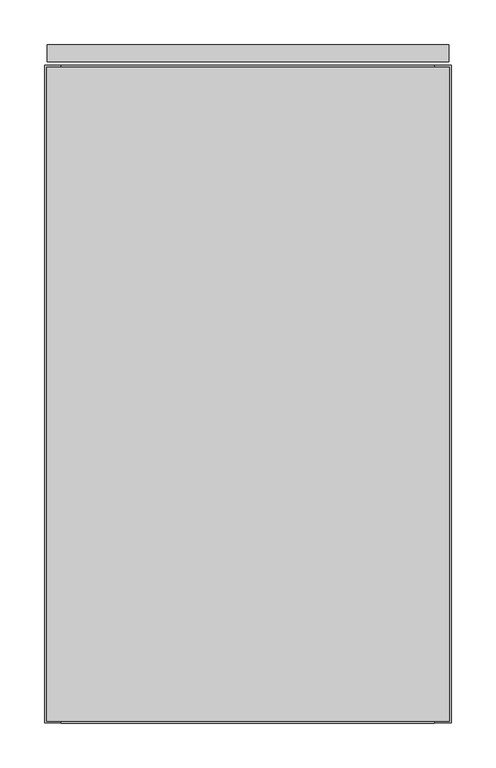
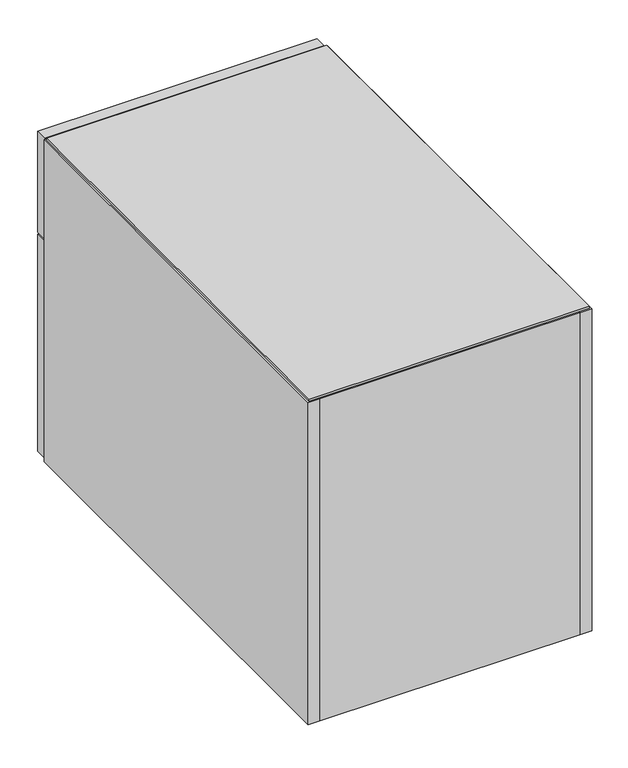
"""IFC4 building model written with IfcOpenShell, lengths in millimetres: furniture geometry, Geiger_GeigerOneCasegoods_LowStorage1Box1File : Vertical Veneer 18Wx30Dx21.75H."""

from ifc_helpers import new_model, si_unit, point, frame, origin, place, context, project, spatial, polyline, circle_curve, ellipse_curve, trimmed, outline, extrude, source, transform, mapped, element, save
from ifc_brep_helpers import plane_surface, cylinder_surface, revolved_surface, advanced_brep


def furniture_6e33beb1(model_context):
    return source(origin(), model_context, "Body", "SolidModel", [
        extrude(outline(polyline([(19.0, 19.5), (19.0, 738.8), (438.2, 738.8), (438.2, 19.5), (19.0, 19.5)])), frame((0.0, 0.0, 73.2), z_axis=(0.0, 0.0, 1.0), x_axis=(1.0, 0.0, 0.0)), (0.0, 0.0, 1.0), 19.5072),
        extrude(outline(polyline([(3.0, 742.8), (3.0, 762.0), (454.2, 762.0), (454.2, 742.8), (3.0, 742.8)])), frame((0.0, 0.0, 15.7), z_axis=(0.0, 0.0, 1.0), x_axis=(1.0, 0.0, 0.0)), (0.0, 0.0, 1.0), 370.0),
        extrude(outline(polyline([(3.0, 742.8), (3.0, 762.0), (454.2, 762.0), (454.2, 742.8), (3.0, 742.8)])), frame((0.0, 0.0, 388.7), z_axis=(0.0, 0.0, 1.0), x_axis=(1.0, 0.0, 0.0)), (0.0, 0.0, 1.0), 172.2),
        extrude(outline(polyline([(19.0, 19.5), (19.0, 719.3), (438.2, 719.3), (438.2, 19.5), (19.0, 19.5)])), frame((0.0, 0.0, 12.7), z_axis=(0.0, 0.0, 1.0), x_axis=(1.0, 0.0, 0.0)), (0.0, 0.0, 1.0), 19.5),
        extrude(outline(polyline([(454.66, 2.54), (2.54, 2.54), (2.54, 736.26), (454.66, 736.26), (454.66, 2.54)])), frame((0.0, 0.0, 561.7), z_axis=(0.0, 0.0, 1.0), x_axis=(1.0, 0.0, 0.0)), (0.0, 0.0, 1.0), 3.2766),
        extrude(outline(polyline([(19.0, 95.7), (19.0, 738.8), (438.2, 738.8), (438.2, 95.7), (19.0, 95.7)])), frame((0.0, 0.0, 542.2), z_axis=(0.0, 0.0, 1.0), x_axis=(1.0, 0.0, 0.0)), (0.0, 0.0, 1.0), 19.5),
        extrude(outline(polyline([(438.2, 19.5), (438.2, 0.0), (19.0, 0.0), (19.0, 19.5), (438.2, 19.5)])), frame((0.0, 0.0, 12.7), z_axis=(0.0, 0.0, 1.0), x_axis=(1.0, 0.0, 0.0)), (0.0, 0.0, 1.0), 549.0),
        extrude(outline(polyline([(19.0, 719.3), (19.0, 738.8), (438.2, 738.8), (438.2, 719.3), (19.0, 719.3)])), frame((0.0, 0.0, 12.7), z_axis=(0.0, 0.0, 1.0), x_axis=(1.0, 0.0, 0.0)), (0.0, 0.0, 1.0), 60.5),
        extrude(outline(polyline([(19.0, 738.8), (19.0, 0.5), (0.0, 0.5), (0.0, 738.8), (19.0, 738.8)])), frame((0.0, 0.0, 12.7), z_axis=(0.0, 0.0, 1.0), x_axis=(1.0, 0.0, 0.0)), (0.0, 0.0, 1.0), 549.0),
        extrude(outline(polyline([(457.2, 738.8), (457.2, 0.5), (438.2, 0.5), (438.2, 738.8), (457.2, 738.8)])), frame((0.0, 0.0, 12.7), z_axis=(0.0, 0.0, 1.0), x_axis=(1.0, 0.0, 0.0)), (0.0, 0.0, 1.0), 549.0),
        advanced_brep(
        [(94.0575663, 681.3165105, 0.0), (83.0, 681.3165105, 0.0), (71.9424337, 681.3165105, 0.0), (71.9424337, 681.3165105, 9.5), (94.0575663, 681.3165105, 9.5), (78.933545, 681.3165105, 9.5), (87.066455, 681.3165105, 9.5), (78.933545, 681.3165105, 12.7), (87.066455, 681.3165105, 12.7), (83.0, 681.3165105, 12.7)],
        [
            (0, 1),
            (1, 2),
            (2, 0, circle_curve(frame((83.0, 681.3165105, 0.0), z_axis=(0.0, 0.0, -1.0), x_axis=(-1.0, 0.0, 0.0)), 11.0575663)),
            (0, 2, circle_curve(frame((83.0, 681.3165105, 0.0), z_axis=(0.0, 0.0, -1.0), x_axis=(-1.0, 0.0, 0.0)), 11.0575663)),
            (2, 3, circle_curve(frame((71.9424337, 681.3165105, 4.75), z_axis=(0.0, 1.0, 0.0), x_axis=(-1.0, 0.0, 0.0)), 4.75)),
            (3, 4, circle_curve(frame((83.0, 681.3165105, 9.5), z_axis=(0.0, 0.0, -1.0), x_axis=(-1.0, 0.0, 0.0)), 11.0575663)),
            (4, 0, circle_curve(frame((94.0575663, 681.3165105, 4.75), z_axis=(0.0, 1.0, 0.0), x_axis=(1.0, 0.0, 0.0)), 4.75)),
            (4, 3, circle_curve(frame((83.0, 681.3165105, 9.5), z_axis=(0.0, 0.0, -1.0), x_axis=(-1.0, 0.0, 0.0)), 11.0575663)),
            (3, 5),
            (5, 6, circle_curve(frame((83.0, 681.3165105, 9.5), z_axis=(0.0, 0.0, -1.0), x_axis=(-1.0, 0.0, 0.0)), 4.066455)),
            (6, 4),
            (6, 5, circle_curve(frame((83.0, 681.3165105, 9.5), z_axis=(0.0, 0.0, -1.0), x_axis=(-1.0, 0.0, 0.0)), 4.066455)),
            (5, 7),
            (7, 8, circle_curve(frame((83.0, 681.3165105, 12.7), z_axis=(0.0, 0.0, -1.0), x_axis=(-1.0, 0.0, 0.0)), 4.066455)),
            (8, 6),
            (8, 7, circle_curve(frame((83.0, 681.3165105, 12.7), z_axis=(0.0, 0.0, -1.0), x_axis=(-1.0, 0.0, 0.0)), 4.066455)),
            (7, 9),
            (9, 8),
        ],
        [
            plane_surface(frame((83.0, 681.3165105, 0.0), z_axis=(0.0, 0.0, -1.0), x_axis=(-1.0, 0.0, 0.0))),
            revolved_surface(trimmed(ellipse_curve(frame((71.9424337, 681.3165105, 4.75), z_axis=(0.0, 1.0, 0.0), x_axis=(-1.0, 0.0, 0.0)), 4.75, 4.75), [point((71.9424337, 681.3165105, 0.0))], [point((71.9424337, 681.3165105, 9.5))], True, "CARTESIAN"), (83.0, 681.3165105, 0.0), (0.0, 0.0, 1.0)),
            plane_surface(frame((83.0, 681.3165105, 9.5), z_axis=(0.0, 0.0, 1.0), x_axis=(-1.0, 0.0, 0.0))),
            cylinder_surface(frame((83.0, 681.3165105, 0.0), z_axis=(0.0, 0.0, 1.0), x_axis=(-1.0, 0.0, 0.0)), 4.066455),
            plane_surface(frame((83.0, 681.3165105, 12.7), z_axis=(0.0, 0.0, 1.0), x_axis=(-1.0, 0.0, 0.0))),
        ],
        [
            (0, [[1, 2, 3]]),
            (0, [[-1, 4, -2]]),
            (1, [[5, 6, 7, -3]]),
            (1, [[-7, 8, -5, -4]]),
            (2, [[9, 10, 11, -6]]),
            (2, [[-11, 12, -9, -8]]),
            (3, [[13, 14, 15, -10]]),
            (3, [[-15, 16, -13, -12]]),
            (4, [[17, 18, -14]]),
            (4, [[-18, -17, -16]]),
        ],
    ),
        advanced_brep(
        [(94.0575663, 127.0, 0.0), (83.0, 127.0, 0.0), (71.9424337, 127.0, 0.0), (71.9424337, 127.0, 9.5), (94.0575663, 127.0, 9.5), (78.933545, 127.0, 9.5), (87.066455, 127.0, 9.5), (78.933545, 127.0, 12.7), (87.066455, 127.0, 12.7), (83.0, 127.0, 12.7)],
        [
            (0, 1),
            (1, 2),
            (2, 0, circle_curve(frame((83.0, 127.0, 0.0), z_axis=(0.0, 0.0, -1.0), x_axis=(-1.0, 0.0, 0.0)), 11.0575663)),
            (0, 2, circle_curve(frame((83.0, 127.0, 0.0), z_axis=(0.0, 0.0, -1.0), x_axis=(-1.0, 0.0, 0.0)), 11.0575663)),
            (2, 3, circle_curve(frame((71.9424337, 127.0, 4.75), z_axis=(0.0, 1.0, 0.0), x_axis=(-1.0, 0.0, 0.0)), 4.75)),
            (3, 4, circle_curve(frame((83.0, 127.0, 9.5), z_axis=(0.0, 0.0, -1.0), x_axis=(-1.0, 0.0, 0.0)), 11.0575663)),
            (4, 0, circle_curve(frame((94.0575663, 127.0, 4.75), z_axis=(0.0, 1.0, 0.0), x_axis=(1.0, 0.0, 0.0)), 4.75)),
            (4, 3, circle_curve(frame((83.0, 127.0, 9.5), z_axis=(0.0, 0.0, -1.0), x_axis=(-1.0, 0.0, 0.0)), 11.0575663)),
            (3, 5),
            (5, 6, circle_curve(frame((83.0, 127.0, 9.5), z_axis=(0.0, 0.0, -1.0), x_axis=(-1.0, 0.0, 0.0)), 4.066455)),
            (6, 4),
            (6, 5, circle_curve(frame((83.0, 127.0, 9.5), z_axis=(0.0, 0.0, -1.0), x_axis=(-1.0, 0.0, 0.0)), 4.066455)),
            (5, 7),
            (7, 8, circle_curve(frame((83.0, 127.0, 12.7), z_axis=(0.0, 0.0, -1.0), x_axis=(-1.0, 0.0, 0.0)), 4.066455)),
            (8, 6),
            (8, 7, circle_curve(frame((83.0, 127.0, 12.7), z_axis=(0.0, 0.0, -1.0), x_axis=(-1.0, 0.0, 0.0)), 4.066455)),
            (7, 9),
            (9, 8),
        ],
        [
            plane_surface(frame((83.0, 127.0, 0.0), z_axis=(0.0, 0.0, -1.0), x_axis=(-1.0, 0.0, 0.0))),
            revolved_surface(trimmed(ellipse_curve(frame((71.9424337, 127.0, 4.75), z_axis=(0.0, 1.0, 0.0), x_axis=(-1.0, 0.0, 0.0)), 4.75, 4.75), [point((71.9424337, 127.0, 0.0))], [point((71.9424337, 127.0, 9.5))], True, "CARTESIAN"), (83.0, 127.0, 0.0), (0.0, 0.0, 1.0)),
            plane_surface(frame((83.0, 127.0, 9.5), z_axis=(0.0, 0.0, 1.0), x_axis=(-1.0, 0.0, 0.0))),
            cylinder_surface(frame((83.0, 127.0, 0.0), z_axis=(0.0, 0.0, 1.0), x_axis=(-1.0, 0.0, 0.0)), 4.066455),
            plane_surface(frame((83.0, 127.0, 12.7), z_axis=(0.0, 0.0, 1.0), x_axis=(-1.0, 0.0, 0.0))),
        ],
        [
            (0, [[1, 2, 3]]),
            (0, [[-1, 4, -2]]),
            (1, [[5, 6, 7, -3]]),
            (1, [[-7, 8, -5, -4]]),
            (2, [[9, 10, 11, -6]]),
            (2, [[-11, 12, -9, -8]]),
            (3, [[13, 14, 15, -10]]),
            (3, [[-15, 16, -13, -12]]),
            (4, [[17, 18, -14]]),
            (4, [[-18, -17, -16]]),
        ],
    ),
        advanced_brep(
        [(374.2, 681.3165105, 0.0), (363.1424337, 681.3165105, 0.0), (385.2575663, 681.3165105, 0.0), (363.1424337, 681.3165105, 9.5), (385.2575663, 681.3165105, 9.5), (370.133545, 681.3165105, 9.5), (378.266455, 681.3165105, 9.5), (370.133545, 681.3165105, 12.7), (378.266455, 681.3165105, 12.7), (374.2, 681.3165105, 12.7)],
        [
            (0, 1),
            (1, 2, circle_curve(frame((374.2, 681.3165105, 0.0), z_axis=(0.0, 0.0, -1.0), x_axis=(1.0, 0.0, 0.0)), 11.0575663)),
            (2, 0),
            (2, 1, circle_curve(frame((374.2, 681.3165105, 0.0), z_axis=(0.0, 0.0, -1.0), x_axis=(1.0, 0.0, 0.0)), 11.0575663)),
            (1, 3, circle_curve(frame((363.1424337, 681.3165105, 4.75), z_axis=(0.0, 1.0, 0.0), x_axis=(1.0, 0.0, 0.0)), 4.75)),
            (3, 4, circle_curve(frame((374.2, 681.3165105, 9.5), z_axis=(0.0, 0.0, -1.0), x_axis=(1.0, 0.0, 0.0)), 11.0575663)),
            (4, 2, circle_curve(frame((385.2575663, 681.3165105, 4.75), z_axis=(0.0, 1.0, 0.0), x_axis=(-1.0, 0.0, 0.0)), 4.75)),
            (4, 3, circle_curve(frame((374.2, 681.3165105, 9.5), z_axis=(0.0, 0.0, -1.0), x_axis=(1.0, 0.0, 0.0)), 11.0575663)),
            (3, 5),
            (5, 6, circle_curve(frame((374.2, 681.3165105, 9.5), z_axis=(0.0, 0.0, -1.0), x_axis=(1.0, 0.0, 0.0)), 4.066455)),
            (6, 4),
            (6, 5, circle_curve(frame((374.2, 681.3165105, 9.5), z_axis=(0.0, 0.0, -1.0), x_axis=(1.0, 0.0, 0.0)), 4.066455)),
            (5, 7),
            (7, 8, circle_curve(frame((374.2, 681.3165105, 12.7), z_axis=(0.0, 0.0, -1.0), x_axis=(1.0, 0.0, 0.0)), 4.066455)),
            (8, 6),
            (8, 7, circle_curve(frame((374.2, 681.3165105, 12.7), z_axis=(0.0, 0.0, -1.0), x_axis=(1.0, 0.0, 0.0)), 4.066455)),
            (7, 9),
            (9, 8),
        ],
        [
            plane_surface(frame((374.2, 681.3165105, 0.0), z_axis=(0.0, 0.0, -1.0), x_axis=(1.0, 0.0, 0.0))),
            revolved_surface(trimmed(ellipse_curve(frame((385.2575663, 681.3165105, 4.75), z_axis=(0.0, 1.0, 0.0), x_axis=(-1.0, 0.0, 0.0)), 4.75, 4.75), [point((385.2575663, 681.3165105, 9.5))], [point((385.2575663, 681.3165105, 0.0))], True, "CARTESIAN"), (374.2, 681.3165105, 0.0), (0.0, 0.0, -1.0)),
            plane_surface(frame((374.2, 681.3165105, 9.5), z_axis=(0.0, 0.0, 1.0), x_axis=(1.0, 0.0, 0.0))),
            cylinder_surface(frame((374.2, 681.3165105, 0.0), z_axis=(0.0, 0.0, -1.0), x_axis=(1.0, 0.0, 0.0)), 4.066455),
            plane_surface(frame((374.2, 681.3165105, 12.7), z_axis=(0.0, 0.0, 1.0), x_axis=(1.0, 0.0, 0.0))),
        ],
        [
            (0, [[1, 2, 3]]),
            (0, [[4, -1, -3]]),
            (1, [[5, 6, 7, -2]]),
            (1, [[-7, 8, -5, -4]]),
            (2, [[9, 10, 11, -6]]),
            (2, [[-11, 12, -9, -8]]),
            (3, [[13, 14, 15, -10]]),
            (3, [[-15, 16, -13, -12]]),
            (4, [[17, 18, -14]]),
            (4, [[-18, -17, -16]]),
        ],
    ),
        advanced_brep(
        [(374.2, 127.0, 0.0), (363.1424337, 127.0, 0.0), (385.2575663, 127.0, 0.0), (363.1424337, 127.0, 9.5), (385.2575663, 127.0, 9.5), (370.133545, 127.0, 9.5), (378.266455, 127.0, 9.5), (370.133545, 127.0, 12.7), (378.266455, 127.0, 12.7), (374.2, 127.0, 12.7)],
        [
            (0, 1),
            (1, 2, circle_curve(frame((374.2, 127.0, 0.0), z_axis=(0.0, 0.0, -1.0), x_axis=(1.0, 0.0, 0.0)), 11.0575663)),
            (2, 0),
            (2, 1, circle_curve(frame((374.2, 127.0, 0.0), z_axis=(0.0, 0.0, -1.0), x_axis=(1.0, 0.0, 0.0)), 11.0575663)),
            (1, 3, circle_curve(frame((363.1424337, 127.0, 4.75), z_axis=(0.0, 1.0, 0.0), x_axis=(1.0, 0.0, 0.0)), 4.75)),
            (3, 4, circle_curve(frame((374.2, 127.0, 9.5), z_axis=(0.0, 0.0, -1.0), x_axis=(1.0, 0.0, 0.0)), 11.0575663)),
            (4, 2, circle_curve(frame((385.2575663, 127.0, 4.75), z_axis=(0.0, 1.0, 0.0), x_axis=(-1.0, 0.0, 0.0)), 4.75)),
            (4, 3, circle_curve(frame((374.2, 127.0, 9.5), z_axis=(0.0, 0.0, -1.0), x_axis=(1.0, 0.0, 0.0)), 11.0575663)),
            (3, 5),
            (5, 6, circle_curve(frame((374.2, 127.0, 9.5), z_axis=(0.0, 0.0, -1.0), x_axis=(1.0, 0.0, 0.0)), 4.066455)),
            (6, 4),
            (6, 5, circle_curve(frame((374.2, 127.0, 9.5), z_axis=(0.0, 0.0, -1.0), x_axis=(1.0, 0.0, 0.0)), 4.066455)),
            (5, 7),
            (7, 8, circle_curve(frame((374.2, 127.0, 12.7), z_axis=(0.0, 0.0, -1.0), x_axis=(1.0, 0.0, 0.0)), 4.066455)),
            (8, 6),
            (8, 7, circle_curve(frame((374.2, 127.0, 12.7), z_axis=(0.0, 0.0, -1.0), x_axis=(1.0, 0.0, 0.0)), 4.066455)),
            (7, 9),
            (9, 8),
        ],
        [
            plane_surface(frame((374.2, 127.0, 0.0), z_axis=(0.0, 0.0, -1.0), x_axis=(1.0, 0.0, 0.0))),
            revolved_surface(trimmed(ellipse_curve(frame((385.2575663, 127.0, 4.75), z_axis=(0.0, 1.0, 0.0), x_axis=(-1.0, 0.0, 0.0)), 4.75, 4.75), [point((385.2575663, 127.0, 9.5))], [point((385.2575663, 127.0, 0.0))], True, "CARTESIAN"), (374.2, 127.0, 0.0), (0.0, 0.0, -1.0)),
            plane_surface(frame((374.2, 127.0, 9.5), z_axis=(0.0, 0.0, 1.0), x_axis=(1.0, 0.0, 0.0))),
            cylinder_surface(frame((374.2, 127.0, 0.0), z_axis=(0.0, 0.0, -1.0), x_axis=(1.0, 0.0, 0.0)), 4.066455),
            plane_surface(frame((374.2, 127.0, 12.7), z_axis=(0.0, 0.0, 1.0), x_axis=(1.0, 0.0, 0.0))),
        ],
        [
            (0, [[1, 2, 3]]),
            (0, [[4, -1, -3]]),
            (1, [[5, 6, 7, -2]]),
            (1, [[-7, 8, -5, -4]]),
            (2, [[9, 10, 11, -6]]),
            (2, [[-11, 12, -9, -8]]),
            (3, [[13, 14, 15, -10]]),
            (3, [[-15, 16, -13, -12]]),
            (4, [[17, 18, -14]]),
            (4, [[-18, -17, -16]]),
        ],
    ),
    ])


if __name__ == "__main__":
    model = new_model("IFC4")
    model_context = context("Model", 3, world=origin())
    ifc_project = project(units=[si_unit("LENGTHUNIT", "METRE", prefix="MILLI")], contexts=[model_context])
    site = spatial("IfcSite", under=ifc_project)
    building = spatial("IfcBuilding", under=site)
    placement = place(None, origin())
    furniture_shape = furniture_6e33beb1(model_context)
    element("IfcFurniture", 1, ObjectType="Geiger_GeigerOneCasegoods_LowStorage1Box1File : Vertical Veneer 18Wx30Dx21.75H", at=placement, inside=building, context=model_context, shape_type="MappedRepresentation", body=[
        mapped(furniture_shape, transform((0.0, 0.0, 0.0), x_axis=(1.0, 0.0, 0.0), y_axis=(0.0, 1.0, 0.0), z_axis=(0.0, 0.0, 1.0))),
    ])
    save(model, "model.ifc")
